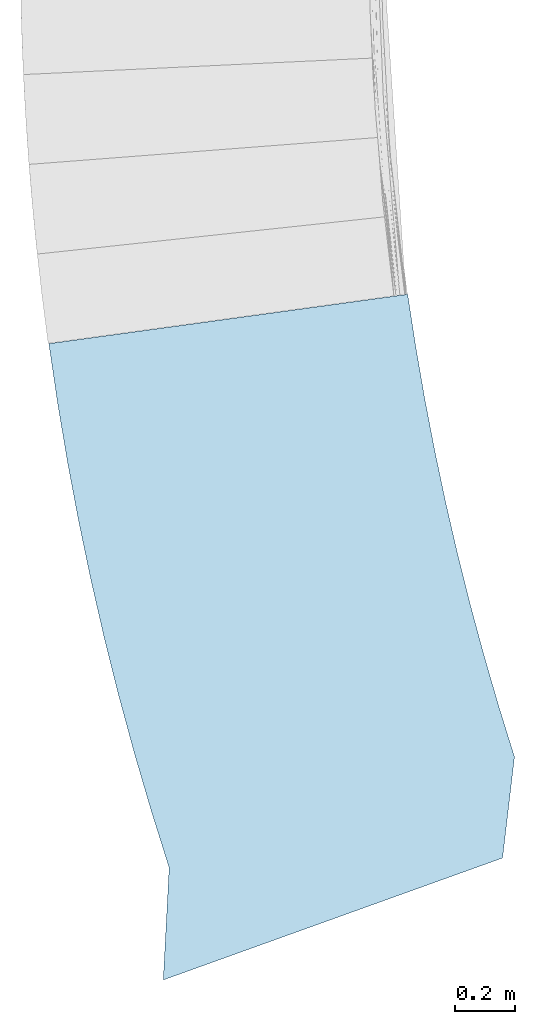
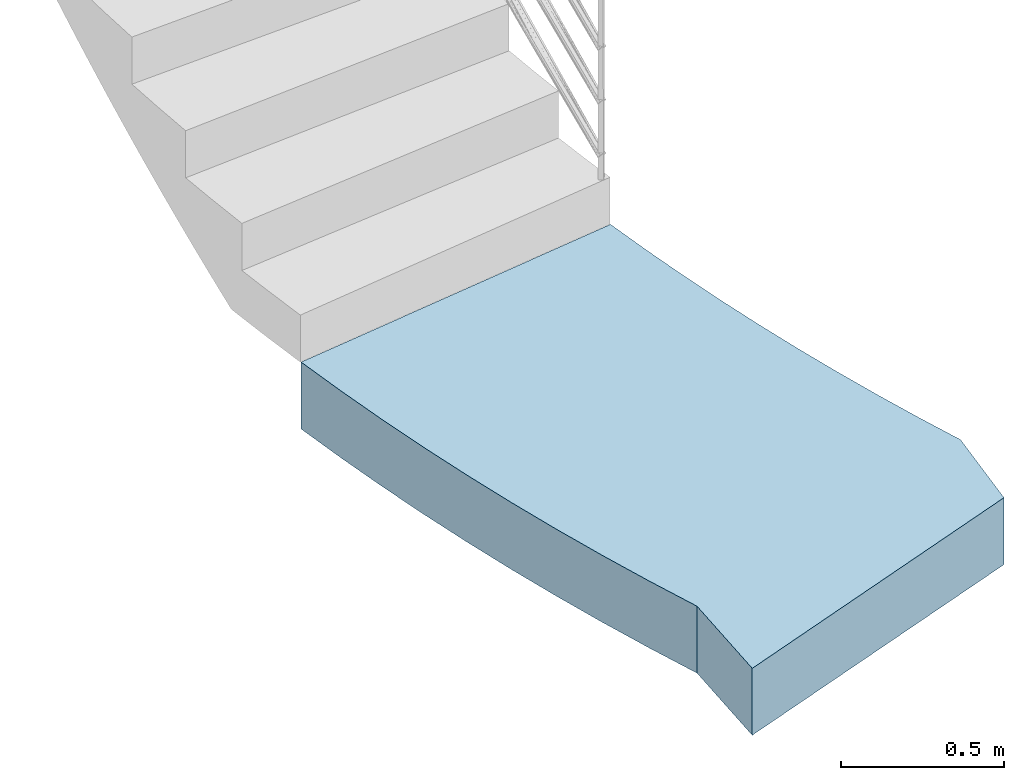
# One storey, incomplete: 1 slab.
"""IFC2X3 building model written with IfcOpenShell, lengths in centimetres."""

from ifc_helpers import new_model, entity, si_unit, converted_unit, derived_unit, direction, frame, frame_2d, origin, place, context, subcontext, project, spatial, polyline, circle_curve, parameter, trimmed, segment, composite_curve, outline, extrude, material, layer, layer_set, layer_usage, element, save


model = new_model("IFC2X3")

# Units and contexts
model_context = context("Model", 3, precision=0.001, world=origin(), true_north=direction((6.12303176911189e-17, 1.0)))
body_context = subcontext(model_context, "Body", "Model", "MODEL_VIEW")
ifc_project = project(units=[si_unit("LENGTHUNIT", "METRE", prefix="CENTI"), si_unit("AREAUNIT", "SQUARE_METRE"), si_unit("VOLUMEUNIT", "CUBIC_METRE"), converted_unit("PLANEANGLEUNIT", "DEGREE", entity("IfcRatioMeasure", 0.0174532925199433), si_unit("PLANEANGLEUNIT", "RADIAN"), dimensions=[0, 0, 0, 0, 0, 0, 0]), si_unit("MASSUNIT", "GRAM", prefix="KILO"), derived_unit("MASSDENSITYUNIT", [(si_unit("MASSUNIT", "GRAM", prefix="KILO"), 1), (si_unit("LENGTHUNIT", "METRE"), -3)]), si_unit("TIMEUNIT", "SECOND"), si_unit("FREQUENCYUNIT", "HERTZ"), si_unit("THERMODYNAMICTEMPERATUREUNIT", "DEGREE_CELSIUS"), derived_unit("THERMALTRANSMITTANCEUNIT", [(si_unit("MASSUNIT", "GRAM", prefix="KILO"), 1), (si_unit("THERMODYNAMICTEMPERATUREUNIT", "KELVIN"), -1), (si_unit("TIMEUNIT", "SECOND"), -3)]), derived_unit("VOLUMETRICFLOWRATEUNIT", [(si_unit("LENGTHUNIT", "METRE"), 3), (si_unit("TIMEUNIT", "SECOND"), -1)]), si_unit("ELECTRICCURRENTUNIT", "AMPERE"), si_unit("ELECTRICVOLTAGEUNIT", "VOLT"), si_unit("POWERUNIT", "WATT"), si_unit("FORCEUNIT", "NEWTON", prefix="KILO"), si_unit("ILLUMINANCEUNIT", "LUX"), si_unit("LUMINOUSFLUXUNIT", "LUMEN"), si_unit("LUMINOUSINTENSITYUNIT", "CANDELA"), derived_unit("USERDEFINED", [(si_unit("MASSUNIT", "GRAM", prefix="KILO"), -1), (si_unit("LENGTHUNIT", "METRE"), -2), (si_unit("TIMEUNIT", "SECOND"), 3), (si_unit("LUMINOUSFLUXUNIT", "LUMEN"), 1)]), derived_unit("LINEARVELOCITYUNIT", [(si_unit("LENGTHUNIT", "METRE"), 1), (si_unit("TIMEUNIT", "SECOND"), -1)]), si_unit("PRESSUREUNIT", "PASCAL"), derived_unit("USERDEFINED", [(si_unit("LENGTHUNIT", "METRE"), -2), (si_unit("MASSUNIT", "GRAM", prefix="KILO"), 1), (si_unit("TIMEUNIT", "SECOND"), -2)])], contexts=[model_context])

# Site, building, storey
site_placement = place(None, origin())
site = spatial("IfcSite", under=ifc_project, at=site_placement, Name="Default", CompositionType="ELEMENT")
building_placement = place(site_placement, origin())
building = spatial("IfcBuilding", under=site, at=building_placement, CompositionType="ELEMENT")
storey_placement = place(building_placement, frame((0.0, 0.0, -604.0)))
storey = spatial("IfcBuildingStorey", under=building, at=storey_placement, Name="Pallier intermédiaire", CompositionType="ELEMENT", Elevation=-604.0)

# Slab
ifc_material = material(Name="Béton, coulé sur place")
ifc_layer = layer(ifc_material, 25.0)
ifc_layer_set = layer_set([ifc_layer], Name="Sol:Béton - 250mm JBTP")
ifc_layer_usage = layer_usage(ifc_layer_set, "AXIS3", "POSITIVE", 0.0)
slab_placement = place(storey_placement, origin())
element("IfcSlab", 1, at=slab_placement, inside=storey, material=ifc_layer_usage, Name="Sol:Béton - 250mm JBTP", ObjectType="Sol:Béton - 250mm JBTP", PredefinedType="FLOOR", context=body_context, shape_type="SweptSolid", body=[
    extrude(outline(composite_curve([segment(polyline([(-53.3256716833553, -122.3831900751), (66.5199295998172, -123.189695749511)]), True, "CONTINUOUS"), segment(trimmed(circle_curve(frame_2d((-933.394061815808, -116.453274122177), x_axis=(0.98534354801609, 0.170581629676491)), 999.936682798), [parameter(349.792366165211)], [parameter(0.0)], True, "PARAMETER"), True, "CONTINUOUS"), segment(polyline([(51.8870970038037, 54.1175548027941), (59.1194237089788, 90.6077377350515)]), True, "CONTINUOUS"), segment(polyline([(59.1194237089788, 90.6077377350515), (-57.7601168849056, 66.6982628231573)]), True, "CONTINUOUS"), segment(polyline([(-57.7601168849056, 66.6982628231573), (-66.4406617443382, 34.1493304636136)]), True, "CONTINUOUS"), segment(trimmed(circle_curve(frame_2d((-994.021502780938, -122.383190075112), x_axis=(1.0, 0.0)), 940.695831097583), [parameter(0.0)], [parameter(9.57861832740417)], True, "PARAMETER"), False, "CONTINUOUS")], self_intersect=False)), frame((-907.029810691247, -248.632725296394, 0.0), z_axis=(0.0, 0.0, 1.0), x_axis=(-0.989749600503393, -0.142813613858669, 0.0)), (0.0, 0.0, -1.0), 24.9999999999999),
])

save(model, "model.ifc")
